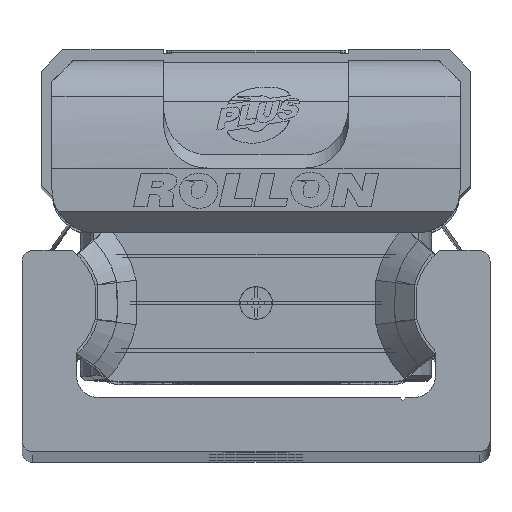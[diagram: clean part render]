
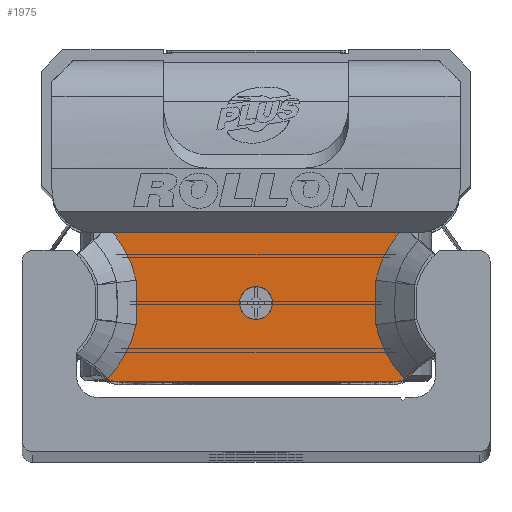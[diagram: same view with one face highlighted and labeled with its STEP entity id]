
A CAD part, top view. The second image highlights one B-rep face of the part: STEP entity #1975.
In plain terms, the highlighted planar face has unit normal (0, 0, 1) as drawn and (0, 0, -1) by its records, which use the part's own axes.
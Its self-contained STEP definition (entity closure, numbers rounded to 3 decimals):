
#1975 = ADVANCED_FACE( '', ( #4092, #4093 ), #4094, .F. );
#4092 = FACE_BOUND( '', #6385, .T. );
#4093 = FACE_OUTER_BOUND( '', #6386, .T. );
#4094 = PLANE( '', #6387 );
#6385 = EDGE_LOOP( '', ( #11767 ) );
#6386 = EDGE_LOOP( '', ( #11768, #11769, #11770, #11771, #11772, #11773, #11774, #11775, #11776, #11777, #11778, #11779 ) );
#6387 = AXIS2_PLACEMENT_3D( '', #11780, #11781, #11782 );
#11767 = ORIENTED_EDGE( '', *, *, #14340, .T. );
#11768 = ORIENTED_EDGE( '', *, *, #14376, .T. );
#11769 = ORIENTED_EDGE( '', *, *, #13566, .F. );
#11770 = ORIENTED_EDGE( '', *, *, #13767, .T. );
#11771 = ORIENTED_EDGE( '', *, *, #12642, .F. );
#11772 = ORIENTED_EDGE( '', *, *, #12375, .T. );
#11773 = ORIENTED_EDGE( '', *, *, #13480, .T. );
#11774 = ORIENTED_EDGE( '', *, *, #14148, .T. );
#11775 = ORIENTED_EDGE( '', *, *, #14396, .T. );
#11776 = ORIENTED_EDGE( '', *, *, #14397, .T. );
#11777 = ORIENTED_EDGE( '', *, *, #13814, .T. );
#11778 = ORIENTED_EDGE( '', *, *, #12900, .T. );
#11779 = ORIENTED_EDGE( '', *, *, #14162, .T. );
#11780 = CARTESIAN_POINT( '', ( 14.9, 7.35, -13.25 ) );
#11781 = DIRECTION( '', ( 0., 0., 1. ) );
#11782 = DIRECTION( '', ( 1., 0., 0. ) );
#12375 = EDGE_CURVE( '', #14671, #14669, #14672, .T. );
#12642 = EDGE_CURVE( '', #14671, #15143, #15144, .T. );
#12900 = EDGE_CURVE( '', #15582, #15580, #15583, .T. );
#13480 = EDGE_CURVE( '', #14669, #16499, #16501, .T. );
#13566 = EDGE_CURVE( '', #16623, #15754, #16625, .T. );
#13767 = EDGE_CURVE( '', #16623, #15143, #16895, .T. );
#13814 = EDGE_CURVE( '', #16963, #15582, #16965, .T. );
#14148 = EDGE_CURVE( '', #16499, #17385, #17387, .T. );
#14162 = EDGE_CURVE( '', #15580, #17403, #17405, .T. );
#14340 = EDGE_CURVE( '', #17611, #17611, #17612, .T. );
#14376 = EDGE_CURVE( '', #17403, #15754, #17649, .T. );
#14396 = EDGE_CURVE( '', #17385, #17670, #17671, .T. );
#14397 = EDGE_CURVE( '', #17670, #16963, #17672, .T. );
#14669 = VERTEX_POINT( '', #17999 );
#14671 = VERTEX_POINT( '', #18002 );
#14672 = B_SPLINE_CURVE_WITH_KNOTS( '', 1, ( #18003, #18004 ), .UNSPECIFIED., .F., .F., ( 2, 2 ), ( 0., 1. ), .UNSPECIFIED. );
#15143 = VERTEX_POINT( '', #18680 );
#15144 = CIRCLE( '', #18681, 2.5 );
#15580 = VERTEX_POINT( '', #19320 );
#15582 = VERTEX_POINT( '', #19323 );
#15583 = B_SPLINE_CURVE_WITH_KNOTS( '', 2, ( #19324, #19325, #19326 ), .UNSPECIFIED., .F., .F., ( 3, 3 ), ( 0., 1. ), .UNSPECIFIED. );
#15754 = VERTEX_POINT( '', #19551 );
#16499 = VERTEX_POINT( '', #20654 );
#16501 = B_SPLINE_CURVE_WITH_KNOTS( '', 2, ( #20657, #20658, #20659, #20660, #20661 ), .UNSPECIFIED., .F., .F., ( 3, 2, 3 ), ( 0., 0.5, 1. ), .UNSPECIFIED. );
#16623 = VERTEX_POINT( '', #20835 );
#16625 = CIRCLE( '', #20838, 2.5 );
#16895 = LINE( '', #21214, #21215 );
#16963 = VERTEX_POINT( '', #21298 );
#16965 = B_SPLINE_CURVE_WITH_KNOTS( '', 2, ( #21303, #21304, #21305, #21306, #21307 ), .UNSPECIFIED., .F., .F., ( 3, 2, 3 ), ( 0.133, 0.5, 1. ), .UNSPECIFIED. );
#17385 = VERTEX_POINT( '', #21914 );
#17387 = B_SPLINE_CURVE_WITH_KNOTS( '', 2, ( #21917, #21918, #21919 ), .UNSPECIFIED., .F., .F., ( 3, 3 ), ( 0., 1. ), .UNSPECIFIED. );
#17403 = VERTEX_POINT( '', #21937 );
#17405 = B_SPLINE_CURVE_WITH_KNOTS( '', 2, ( #21940, #21941, #21942, #21943, #21944 ), .UNSPECIFIED., .F., .F., ( 3, 2, 3 ), ( 0., 0.5, 1. ), .UNSPECIFIED. );
#17611 = VERTEX_POINT( '', #22215 );
#17612 = CIRCLE( '', #22216, 1.5 );
#17649 = B_SPLINE_CURVE_WITH_KNOTS( '', 1, ( #22262, #22263 ), .UNSPECIFIED., .F., .F., ( 2, 2 ), ( 0., 1. ), .UNSPECIFIED. );
#17670 = VERTEX_POINT( '', #22294 );
#17671 = B_SPLINE_CURVE_WITH_KNOTS( '', 2, ( #22295, #22296, #22297, #22298, #22299 ), .UNSPECIFIED., .F., .F., ( 3, 2, 3 ), ( 0., 0.5, 0.868 ), .UNSPECIFIED. );
#17672 = LINE( '', #22300, #22301 );
#17999 = CARTESIAN_POINT( '', ( -13.628, -6.965, -13.25 ) );
#18002 = CARTESIAN_POINT( '', ( -14.904, -5.718, -13.25 ) );
#18003 = CARTESIAN_POINT( '', ( -14.915, -5.713, -13.25 ) );
#18004 = CARTESIAN_POINT( '', ( -13.628, -6.965, -13.25 ) );
#18680 = CARTESIAN_POINT( '', ( -12.58, -7.3, -13.25 ) );
#18681 = AXIS2_PLACEMENT_3D( '', #22911, #22912, #22913 );
#19320 = CARTESIAN_POINT( '', ( 11.012, -2.045, -13.25 ) );
#19323 = CARTESIAN_POINT( '', ( 11.012, 2.045, -13.25 ) );
#19324 = CARTESIAN_POINT( '', ( 11.012, 2.045, -13.25 ) );
#19325 = CARTESIAN_POINT( '', ( 10.888, 0., -13.25 ) );
#19326 = CARTESIAN_POINT( '', ( 11.012, -2.045, -13.25 ) );
#19551 = CARTESIAN_POINT( '', ( 14.906, -5.717, -13.25 ) );
#20654 = CARTESIAN_POINT( '', ( -11.012, -2.045, -13.25 ) );
#20657 = CARTESIAN_POINT( '', ( -13.628, -6.965, -13.25 ) );
#20658 = CARTESIAN_POINT( '', ( -12.638, -5.946, -13.25 ) );
#20659 = CARTESIAN_POINT( '', ( -11.97, -4.691, -13.25 ) );
#20660 = CARTESIAN_POINT( '', ( -11.303, -3.437, -13.25 ) );
#20661 = CARTESIAN_POINT( '', ( -11.012, -2.045, -13.25 ) );
#20835 = CARTESIAN_POINT( '', ( 12.58, -7.3, -13.25 ) );
#20838 = AXIS2_PLACEMENT_3D( '', #24203, #24204, #24205 );
#21214 = CARTESIAN_POINT( '', ( 12.58, -7.3, -13.25 ) );
#21215 = VECTOR( '', #24455, 1000. );
#21298 = CARTESIAN_POINT( '', ( 13.12, 6.4, -13.25 ) );
#21303 = CARTESIAN_POINT( '', ( 13.119, 6.4, -13.25 ) );
#21304 = CARTESIAN_POINT( '', ( 12.459, 5.608, -13.25 ) );
#21305 = CARTESIAN_POINT( '', ( 11.968, 4.684, -13.25 ) );
#21306 = CARTESIAN_POINT( '', ( 11.301, 3.427, -13.25 ) );
#21307 = CARTESIAN_POINT( '', ( 11.012, 2.045, -13.25 ) );
#21914 = CARTESIAN_POINT( '', ( -11.012, 2.045, -13.25 ) );
#21917 = CARTESIAN_POINT( '', ( -11.012, -2.045, -13.25 ) );
#21918 = CARTESIAN_POINT( '', ( -10.888, 0., -13.25 ) );
#21919 = CARTESIAN_POINT( '', ( -11.012, 2.045, -13.25 ) );
#21937 = CARTESIAN_POINT( '', ( 13.628, -6.965, -13.25 ) );
#21940 = CARTESIAN_POINT( '', ( 11.012, -2.045, -13.25 ) );
#21941 = CARTESIAN_POINT( '', ( 11.301, -3.43, -13.25 ) );
#21942 = CARTESIAN_POINT( '', ( 11.972, -4.69, -13.25 ) );
#21943 = CARTESIAN_POINT( '', ( 12.642, -5.95, -13.25 ) );
#21944 = CARTESIAN_POINT( '', ( 13.628, -6.965, -13.25 ) );
#22215 = CARTESIAN_POINT( '', ( 1.5, -0.05, -13.25 ) );
#22216 = AXIS2_PLACEMENT_3D( '', #25009, #25010, #25011 );
#22262 = CARTESIAN_POINT( '', ( 13.628, -6.965, -13.25 ) );
#22263 = CARTESIAN_POINT( '', ( 14.9, -5.728, -13.25 ) );
#22294 = CARTESIAN_POINT( '', ( -13.119, 6.4, -13.25 ) );
#22295 = CARTESIAN_POINT( '', ( -11.012, 2.045, -13.25 ) );
#22296 = CARTESIAN_POINT( '', ( -11.302, 3.432, -13.25 ) );
#22297 = CARTESIAN_POINT( '', ( -11.967, 4.685, -13.25 ) );
#22298 = CARTESIAN_POINT( '', ( -12.456, 5.606, -13.25 ) );
#22299 = CARTESIAN_POINT( '', ( -13.119, 6.4, -13.25 ) );
#22300 = CARTESIAN_POINT( '', ( 14.9, 6.4, -13.25 ) );
#22301 = VECTOR( '', #25042, 1000. );
#22911 = CARTESIAN_POINT( '', ( -12.58, -4.8, -13.25 ) );
#22912 = DIRECTION( '', ( 0., 0., 1. ) );
#22913 = DIRECTION( '', ( 1., 0., 0. ) );
#24203 = CARTESIAN_POINT( '', ( 12.58, -4.8, -13.25 ) );
#24204 = DIRECTION( '', ( 0., 0., 1. ) );
#24205 = DIRECTION( '', ( 1., 0., 0. ) );
#24455 = DIRECTION( '', ( -1., 0., 0. ) );
#25009 = CARTESIAN_POINT( '', ( 0., -0.05, -13.25 ) );
#25010 = DIRECTION( '', ( 0., 0., 1. ) );
#25011 = DIRECTION( '', ( 1., 0., 0. ) );
#25042 = DIRECTION( '', ( 1., 0., 0. ) );
